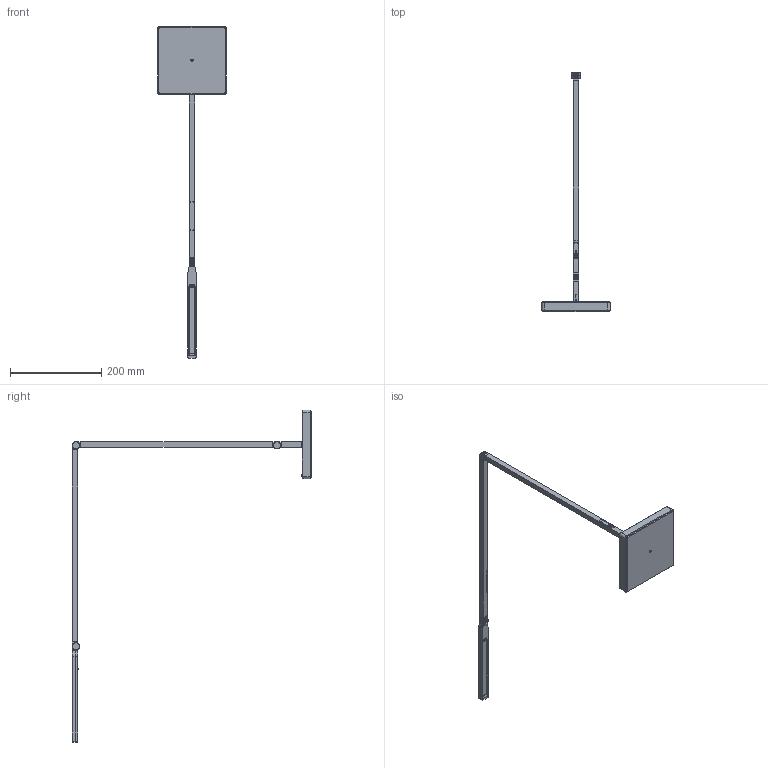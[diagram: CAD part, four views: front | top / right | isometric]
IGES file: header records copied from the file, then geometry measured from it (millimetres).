
Start section: SolidWorks IGES file using analytic representation for surfaces
Global section: file name: C:\Users\merba.NEMOLIGHTING\Desktop\Nuova cartella\UNTITLED LINEAR TABLE.IGS; native system: SolidWorks 2016; preprocessor: SolidWorks 2016; author: merba; date: 200921.115836; units: millimetre
Bounding box: 150.31 x 524.65 x 727.66 mm (x, y, z)
Surface area: 183853.5 mm2 (no closed solid volume)
Topology: 0 solids, 0 shells, 1895 faces, 16536 edges, 16533 vertices
Faces by surface type: bspline 1322, revolution 573
